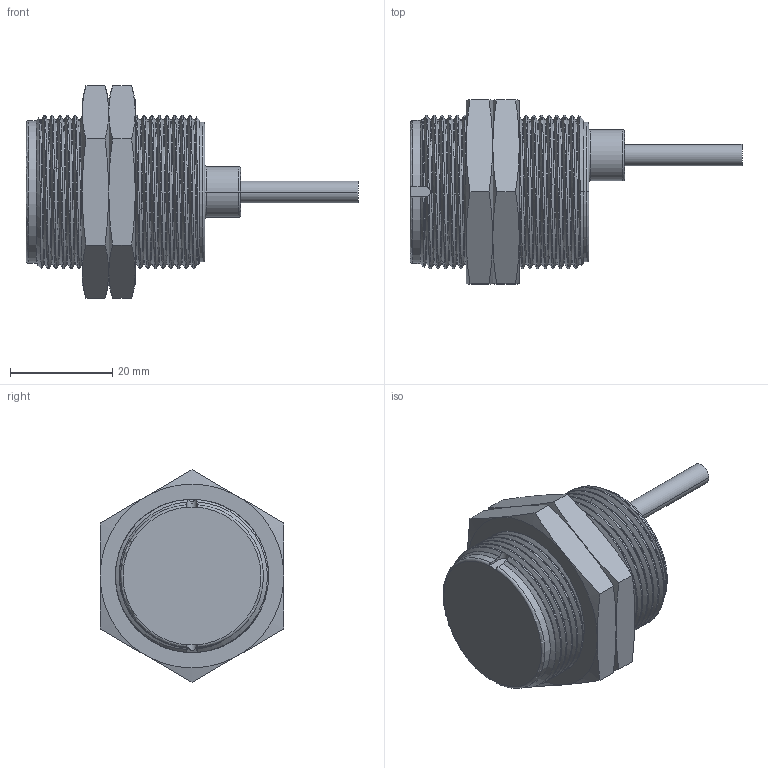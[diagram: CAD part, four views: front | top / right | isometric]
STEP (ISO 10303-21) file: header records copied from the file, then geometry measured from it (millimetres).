
FILE_DESCRIPTION((''),'2;1');
FILE_NAME('6490653379_SW0001','2025-01-08T11:52:38',('Rudolf.Poettker'),(''),'CREO PARAMETRIC BY PTC INC, 2022124','CREO PARAMETRIC BY PTC INC, 2022124','');
FILE_SCHEMA(('AUTOMOTIVE_DESIGN { 1 0 10303 214 1 1 1 1 }'));
Length unit declared in the file: millimetre
Products named in the file (1): 6490653379_SW0001
Bounding box: 65 x 36 x 41.57 mm (x, y, z)
Volume: 28518.3 mm3; surface area: 7705.1 mm2
Topology: 1 solids, 1 shells, 128 faces, 314 edges, 194 vertices
Faces by surface type: cylinder 39, cone 29, plane 26, bspline 24, torus 10
Entity records: 21913 total; most frequent: CARTESIAN_POINT 16614, ORIENTED_EDGE 628, PRESENTATION_STYLE_ASSIGNMENT 447, DIRECTION 429, STYLED_ITEM 319, CURVE_STYLE 318, EDGE_CURVE 314, VERTEX_POINT 194
